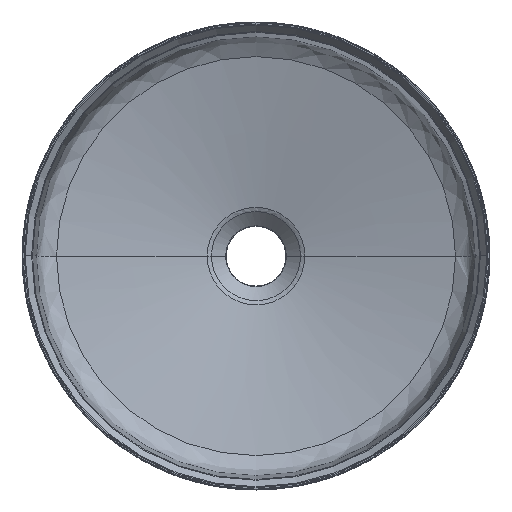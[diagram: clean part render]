
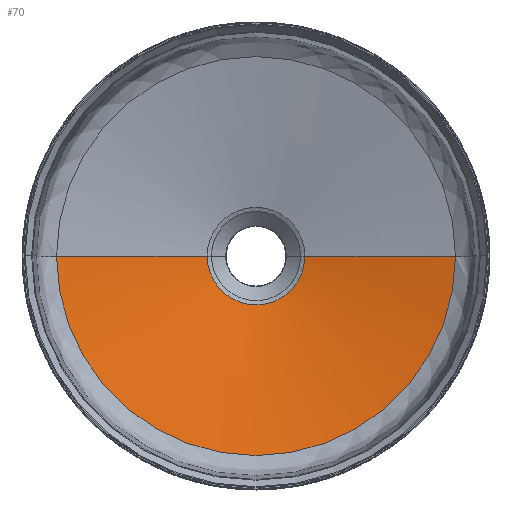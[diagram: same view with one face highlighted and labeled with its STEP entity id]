
A CAD part, top view. The second image highlights one B-rep face of the part: STEP entity #70.
In plain terms, the highlighted free-form (B-spline) face has degree [1, 2] with [2, 5] control points.
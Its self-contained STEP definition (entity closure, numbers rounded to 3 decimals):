
#70=ADVANCED_FACE('',(#198),#1820,.T.);
#198=FACE_OUTER_BOUND('',#326,.T.);
#326=EDGE_LOOP('',(#616,#617,#618,#619));
#616=ORIENTED_EDGE('',*,*,#1026,.F.);
#617=ORIENTED_EDGE('',*,*,#1020,.T.);
#618=ORIENTED_EDGE('',*,*,#1134,.F.);
#619=ORIENTED_EDGE('',*,*,#1135,.F.);
#1020=EDGE_CURVE('',#1664,#1662,#1229,.T.);
#1026=EDGE_CURVE('',#1664,#1666,#1234,.T.);
#1134=EDGE_CURVE('',#1720,#1662,#1399,.T.);
#1135=EDGE_CURVE('',#1666,#1720,#1238,.T.);
#1229=(
BOUNDED_CURVE()
B_SPLINE_CURVE(1,(#4468,#4469),.UNSPECIFIED.,.F.,.F.)
B_SPLINE_CURVE_WITH_KNOTS((2,2),(31.461,153.188),
 .UNSPECIFIED.)
CURVE()
GEOMETRIC_REPRESENTATION_ITEM()
RATIONAL_B_SPLINE_CURVE((1.,1.))
REPRESENTATION_ITEM('')
);
#1234=(
BOUNDED_CURVE()
B_SPLINE_CURVE(3,(#4626,#4627,#4628,#4629,#4630,#4631,#4632,#4633,#4634,
#4635,#4636,#4637,#4638,#4639,#4640,#4641,#4642,#4643,#4644,#4645,#4646,
#4647,#4648,#4649,#4650,#4651,#4652,#4653,#4654,#4655,#4656,#4657,#4658,
#4659,#4660,#4661,#4662,#4663,#4664,#4665,#4666,#4667,#4668,#4669,#4670,
#4671,#4672,#4673,#4674,#4675,#4676,#4677),.UNSPECIFIED.,.F.,.F.)
B_SPLINE_CURVE_WITH_KNOTS((4,3,3,3,3,3,3,3,3,3,3,3,3,3,3,3,3,4),(-246.3,
-238.73,-231.16,-223.59,-216.02,
-208.305,-200.59,-192.875,-185.159,
-177.481,-169.802,-162.124,-154.445,
-146.676,-138.906,-131.137,-123.367,
-123.15),.UNSPECIFIED.)
CURVE()
GEOMETRIC_REPRESENTATION_ITEM()
RATIONAL_B_SPLINE_CURVE((1.,1.,1.,1.,1.,1.,1.,1.,1.,1.,1.,1.,1.,1.,1.,1.,
1.,1.,1.,1.,
1.,1.,1.,1.,1.,1.,1.,1.,1.,1.,1.,1.,1.,1.,1.,1.,1.,1.,1.,
1.,1.,1.,1.,1.,1.,1.,
1.,1.,1.,1.,1.,1.))
REPRESENTATION_ITEM('')
);
#1238=(
BOUNDED_CURVE()
B_SPLINE_CURVE(1,(#4975,#4976),.UNSPECIFIED.,.F.,.F.)
B_SPLINE_CURVE_WITH_KNOTS((2,2),(31.461,153.188),
 .UNSPECIFIED.)
CURVE()
GEOMETRIC_REPRESENTATION_ITEM()
RATIONAL_B_SPLINE_CURVE((1.,1.))
REPRESENTATION_ITEM('')
);
#1399=TRIMMED_CURVE($,#1584,(#4973),(#4974),.T.,.CARTESIAN.);
#1584=CIRCLE('',#2155,153.51);
#1662=VERTEX_POINT('',#4112);
#1664=VERTEX_POINT('',#4114);
#1666=VERTEX_POINT('',#4116);
#1720=VERTEX_POINT('',#4170);
#1820=(
BOUNDED_SURFACE()
B_SPLINE_SURFACE(1,2,((#3250,#3251,#3252,#3253,#3254),(#3255,#3256,#3257,
#3258,#3259)),.UNSPECIFIED.,.F.,.F.,.F.)
B_SPLINE_SURFACE_WITH_KNOTS((2,2),(3,2,3),(29.489,153.188),
(0.,241.134,482.267),.UNSPECIFIED.)
GEOMETRIC_REPRESENTATION_ITEM()
RATIONAL_B_SPLINE_SURFACE(((1.,0.707,1.,0.707,1.),
(1.,0.707,1.,0.707,1.)))
REPRESENTATION_ITEM('')
SURFACE()
);
#2155=AXIS2_PLACEMENT_3D($,#4972,#2553,#2554);
#2553=DIRECTION('',(0.,0.,-1.));
#2554=DIRECTION('',(1.,0.,0.));
#3250=CARTESIAN_POINT('',(-23267.3,36329.64,-1545.303));
#3251=CARTESIAN_POINT('',(-23267.3,36293.988,-1545.303));
#3252=CARTESIAN_POINT('',(-23231.649,36293.988,-1545.303));
#3253=CARTESIAN_POINT('',(-23195.998,36293.988,-1545.303));
#3254=CARTESIAN_POINT('',(-23195.998,36329.64,-1545.303));
#3255=CARTESIAN_POINT('',(-23385.159,36329.64,-1518.384));
#3256=CARTESIAN_POINT('',(-23385.159,36176.129,-1518.384));
#3257=CARTESIAN_POINT('',(-23231.649,36176.129,-1518.384));
#3258=CARTESIAN_POINT('',(-23078.138,36176.129,-1518.384));
#3259=CARTESIAN_POINT('',(-23078.138,36329.64,-1518.384));
#4112=CARTESIAN_POINT('',(-23385.159,36329.64,-1518.384));
#4114=CARTESIAN_POINT('',(-23269.179,36329.64,-1544.874));
#4116=CARTESIAN_POINT('',(-23194.119,36329.64,-1544.874));
#4170=CARTESIAN_POINT('',(-23078.138,36329.64,-1518.384));
#4468=CARTESIAN_POINT('',(-23269.179,36329.64,-1544.874));
#4469=CARTESIAN_POINT('',(-23385.159,36329.64,-1518.384));
#4626=CARTESIAN_POINT('',(-23269.179,36329.64,-1544.874));
#4627=CARTESIAN_POINT('',(-23269.179,36327.224,-1544.874));
#4628=CARTESIAN_POINT('',(-23268.945,36324.808,-1544.874));
#4629=CARTESIAN_POINT('',(-23268.481,36322.437,-1544.874));
#4630=CARTESIAN_POINT('',(-23268.018,36320.066,-1544.874));
#4631=CARTESIAN_POINT('',(-23267.324,36317.74,-1544.874));
#4632=CARTESIAN_POINT('',(-23266.414,36315.502,-1544.874));
#4633=CARTESIAN_POINT('',(-23265.504,36313.264,-1544.874));
#4634=CARTESIAN_POINT('',(-23264.378,36311.115,-1544.874));
#4635=CARTESIAN_POINT('',(-23263.055,36309.093,-1544.874));
#4636=CARTESIAN_POINT('',(-23261.732,36307.071,-1544.874));
#4637=CARTESIAN_POINT('',(-23260.214,36305.178,-1544.874));
#4638=CARTESIAN_POINT('',(-23258.528,36303.448,-1544.874));
#4639=CARTESIAN_POINT('',(-23256.81,36301.684,-1544.874));
#4640=CARTESIAN_POINT('',(-23254.917,36300.09,-1544.874));
#4641=CARTESIAN_POINT('',(-23252.887,36298.697,-1544.874));
#4642=CARTESIAN_POINT('',(-23250.857,36297.304,-1544.874));
#4643=CARTESIAN_POINT('',(-23248.69,36296.111,-1544.874));
#4644=CARTESIAN_POINT('',(-23246.426,36295.141,-1544.874));
#4645=CARTESIAN_POINT('',(-23244.163,36294.172,-1544.874));
#4646=CARTESIAN_POINT('',(-23241.804,36293.426,-1544.874));
#4647=CARTESIAN_POINT('',(-23239.395,36292.918,-1544.874));
#4648=CARTESIAN_POINT('',(-23236.986,36292.409,-1544.874));
#4649=CARTESIAN_POINT('',(-23234.526,36292.139,-1544.874));
#4650=CARTESIAN_POINT('',(-23232.064,36292.112,-1544.874));
#4651=CARTESIAN_POINT('',(-23229.614,36292.085,-1544.874));
#4652=CARTESIAN_POINT('',(-23227.161,36292.298,-1544.874));
#4653=CARTESIAN_POINT('',(-23224.752,36292.749,-1544.874));
#4654=CARTESIAN_POINT('',(-23222.344,36293.199,-1544.874));
#4655=CARTESIAN_POINT('',(-23219.979,36293.886,-1544.874));
#4656=CARTESIAN_POINT('',(-23217.704,36294.796,-1544.874));
#4657=CARTESIAN_POINT('',(-23215.429,36295.707,-1544.874));
#4658=CARTESIAN_POINT('',(-23213.243,36296.841,-1544.874));
#4659=CARTESIAN_POINT('',(-23211.189,36298.177,-1544.874));
#4660=CARTESIAN_POINT('',(-23209.135,36299.513,-1544.874));
#4661=CARTESIAN_POINT('',(-23207.212,36301.05,-1544.874));
#4662=CARTESIAN_POINT('',(-23205.457,36302.761,-1544.874));
#4663=CARTESIAN_POINT('',(-23203.681,36304.491,-1544.874));
#4664=CARTESIAN_POINT('',(-23202.077,36306.398,-1544.874));
#4665=CARTESIAN_POINT('',(-23200.677,36308.444,-1544.874));
#4666=CARTESIAN_POINT('',(-23199.276,36310.49,-1544.874));
#4667=CARTESIAN_POINT('',(-23198.08,36312.676,-1544.874));
#4668=CARTESIAN_POINT('',(-23197.11,36314.958,-1544.874));
#4669=CARTESIAN_POINT('',(-23196.14,36317.24,-1544.874));
#4670=CARTESIAN_POINT('',(-23195.396,36319.618,-1544.874));
#4671=CARTESIAN_POINT('',(-23194.895,36322.046,-1544.874));
#4672=CARTESIAN_POINT('',(-23194.393,36324.474,-1544.874));
#4673=CARTESIAN_POINT('',(-23194.133,36326.952,-1544.874));
#4674=CARTESIAN_POINT('',(-23194.119,36329.432,-1544.874));
#4675=CARTESIAN_POINT('',(-23194.119,36329.501,-1544.874));
#4676=CARTESIAN_POINT('',(-23194.119,36329.57,-1544.874));
#4677=CARTESIAN_POINT('',(-23194.119,36329.64,-1544.874));
#4972=CARTESIAN_POINT('',(-23231.649,36329.64,-1518.384));
#4973=CARTESIAN_POINT('',(-23078.138,36329.64,-1518.384));
#4974=CARTESIAN_POINT('',(-23385.159,36329.64,-1518.384));
#4975=CARTESIAN_POINT('',(-23194.119,36329.64,-1544.874));
#4976=CARTESIAN_POINT('',(-23078.138,36329.64,-1518.384));
